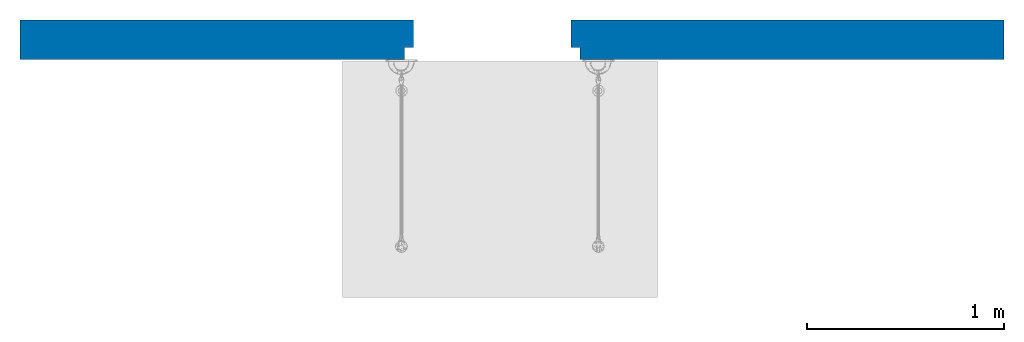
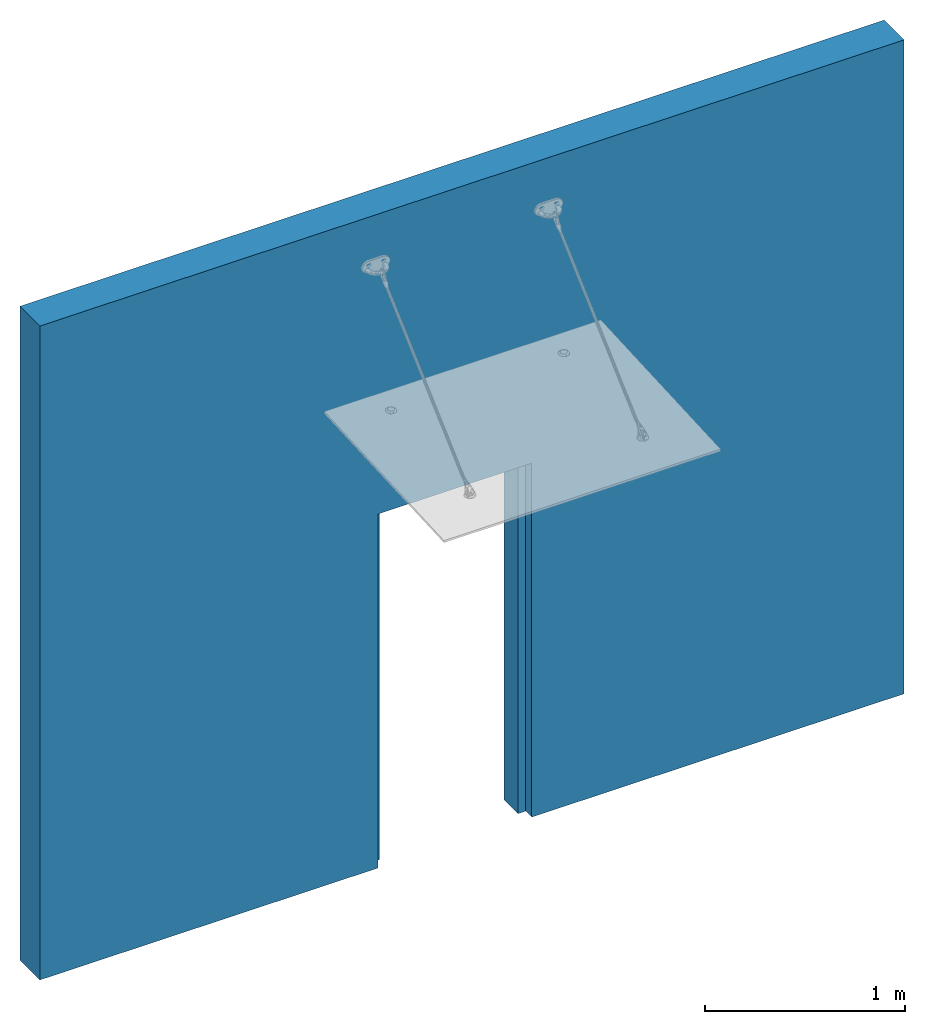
# One storey, incomplete: 1 wall, 1 opening.
"""IFC4 building model written with IfcOpenShell, lengths in millimetres."""

from ifc_helpers import new_model, entity, si_unit, converted_unit, derived_unit, direction, frame, frame_2d, origin, place, context, subcontext, project, spatial, rectangle, extrude, faceted_brep, material, layer, layer_set, layer_usage, type_object, element, save


model = new_model("IFC4")

# Units and contexts
model_context = context("Model", 3, precision=0.01, world=origin(), true_north=direction((6.12303176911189e-17, 1.0)))
body_context = subcontext(model_context, "Body", "Model", "MODEL_VIEW")
ifc_project = project(units=[si_unit("LENGTHUNIT", "METRE", prefix="MILLI"), si_unit("AREAUNIT", "SQUARE_METRE"), si_unit("VOLUMEUNIT", "CUBIC_METRE"), converted_unit("PLANEANGLEUNIT", "DEGREE", entity("IfcRatioMeasure", 0.0174532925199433), si_unit("PLANEANGLEUNIT", "RADIAN"), dimensions=[0, 0, 0, 0, 0, 0, 0]), si_unit("MASSUNIT", "GRAM", prefix="KILO"), si_unit("TIMEUNIT", "SECOND"), si_unit("FREQUENCYUNIT", "HERTZ"), si_unit("THERMODYNAMICTEMPERATUREUNIT", "DEGREE_CELSIUS"), derived_unit("THERMALTRANSMITTANCEUNIT", [(si_unit("MASSUNIT", "GRAM", prefix="KILO"), 1), (si_unit("THERMODYNAMICTEMPERATUREUNIT", "KELVIN"), -1), (si_unit("TIMEUNIT", "SECOND"), -3)]), derived_unit("VOLUMETRICFLOWRATEUNIT", [(si_unit("LENGTHUNIT", "METRE"), 3), (si_unit("TIMEUNIT", "SECOND"), -1)]), si_unit("ELECTRICCURRENTUNIT", "AMPERE"), si_unit("ELECTRICVOLTAGEUNIT", "VOLT"), si_unit("POWERUNIT", "WATT"), si_unit("FORCEUNIT", "NEWTON", prefix="KILO"), si_unit("ILLUMINANCEUNIT", "LUX"), si_unit("LUMINOUSFLUXUNIT", "LUMEN"), si_unit("LUMINOUSINTENSITYUNIT", "CANDELA"), derived_unit("USERDEFINED", [(si_unit("MASSUNIT", "GRAM", prefix="KILO"), -1), (si_unit("LENGTHUNIT", "METRE"), -2), (si_unit("TIMEUNIT", "SECOND"), 3), (si_unit("LUMINOUSFLUXUNIT", "LUMEN"), 1)]), derived_unit("LINEARVELOCITYUNIT", [(si_unit("LENGTHUNIT", "METRE"), 1), (si_unit("TIMEUNIT", "SECOND"), -1)]), si_unit("PRESSUREUNIT", "PASCAL"), derived_unit("USERDEFINED", [(si_unit("LENGTHUNIT", "METRE"), -2), (si_unit("MASSUNIT", "GRAM", prefix="KILO"), 1), (si_unit("TIMEUNIT", "SECOND"), -2)])], contexts=[model_context])

# Site, building, storey
site_placement = place(None, origin())
site = spatial("IfcSite", under=ifc_project, at=site_placement, Name="Default", CompositionType="ELEMENT")
building_placement = place(site_placement, origin())
building = spatial("IfcBuilding", under=site, at=building_placement, CompositionType="ELEMENT")
storey_placement = place(building_placement, origin())
storey = spatial("IfcBuildingStorey", under=building, at=storey_placement, Name="Livello 1", CompositionType="ELEMENT", Elevation=0.0)

# Wall, opening
ifc_material = material(Name="Acciaio inossidabile")
ifc_layer = layer(ifc_material, 200.0)
ifc_layer_set = layer_set([ifc_layer], Name="Basic Wall:Muro 1")
ifc_layer_usage = layer_usage(ifc_layer_set, "AXIS2", "NEGATIVE", 100.0)
wall_type = type_object("IfcWallType", Name="Basic Wall:Muro 1", PredefinedType="NOTDEFINED", material=ifc_layer_set)
wall_placement = place(storey_placement, frame((6759.31677018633, 3156.83229813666, 0.0)))
wall = element("IfcWallStandardCase", 1, at=wall_placement, inside=storey, type_object=wall_type, material=ifc_layer_usage, Name="Basic Wall:Muro 1:2318", ObjectType="Basic Wall:Muro 1:1523", PredefinedType="NOTDEFINED", context=body_context, shape_type="SweptSolid", body=[
    extrude(rectangle(XDim=5000.0, YDim=200.0, at=frame_2d((2500.0, 1.63424829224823e-13), x_axis=(-1.0, 0.0))), origin(), (0.0, 0.0, 1.0), 4000.0),
])
opening_placement = place(wall_placement, frame((1955.0, -100.0, 0.0)))
element("IfcOpeningElement", 2, at=opening_placement, cuts=wall, Name="Basic Wall:Muro 1:2318", ObjectType="Opening", PredefinedType="OPENING", context=body_context, shape_type="Brep", body=[
    faceted_brep([(890.0, 0.0, 2165.0), (0.0, 0.0, 2165.0), (0.0, 0.0, 0.0), (890.0, 0.0, 0.0), (890.0, 60.0, 2165.0), (890.0, 60.0, 0.0), (845.0, 60.0, 0.0), (845.0, 60.0, 2120.0), (45.0, 60.0, 2120.0), (45.0, 60.0, 0.0), (0.0, 60.0, 0.0), (0.0, 60.0, 2165.0), (45.0, 200.0, 0.0), (845.0, 200.0, 0.0), (845.0, 200.0, 2120.0), (45.0, 200.0, 2120.0)], [[[0, 1, 2, 3]], [[4, 5, 6, 7, 8, 9, 10, 11]], [[0, 4, 11, 1]], [[1, 11, 10, 2]], [[10, 9, 12, 13, 6, 5, 3, 2]], [[3, 5, 4, 0]], [[14, 13, 12, 15]], [[15, 8, 7, 14]], [[12, 9, 8, 15]], [[14, 7, 6, 13]]]),
])

save(model, "model.ifc")
